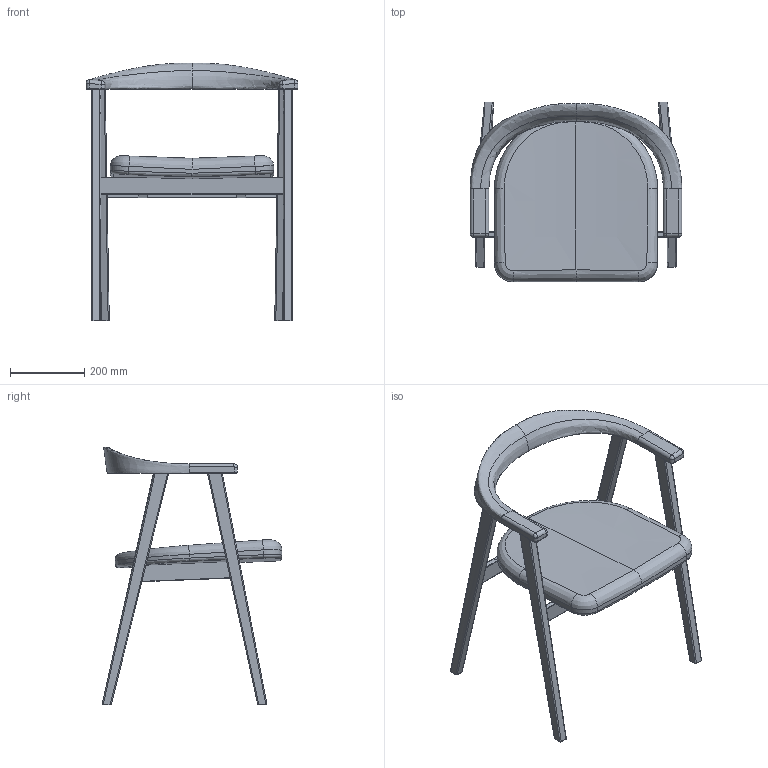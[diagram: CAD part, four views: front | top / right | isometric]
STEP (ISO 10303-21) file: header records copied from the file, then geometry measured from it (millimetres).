
FILE_DESCRIPTION(/* description */ (''),/* implementation_level */ '2;1');
FILE_NAME(/* name */ 'KIOGK2~R',/* time_stamp */ '2020-06-23T09:10:16+09:00',/* author */ (''),/* organization */ (''),/* preprocessor_version */ 'ST-DEVELOPER v15',/* originating_system */ '',/* authorisation */ '');
FILE_SCHEMA (('AUTOMOTIVE_DESIGN'));
Length unit declared in the file: millimetre
Products named in the file (1): Document
Bounding box: 570 x 484.73 x 695 mm (x, y, z)
Volume: 2473873.8 mm3; surface area: 1038140.9 mm2
Topology: 6 solids, 10 shells, 192 faces, 487 edges, 283 vertices
Faces by surface type: bspline 138, plane 54
Entity records: 17911 total; most frequent: CARTESIAN_POINT 15123, ORIENTED_EDGE 906, EDGE_CURVE 487, B_SPLINE_CURVE_WITH_KNOTS 293, VERTEX_POINT 283, ADVANCED_FACE 192, FACE_OUTER_BOUND 192, EDGE_LOOP 192
